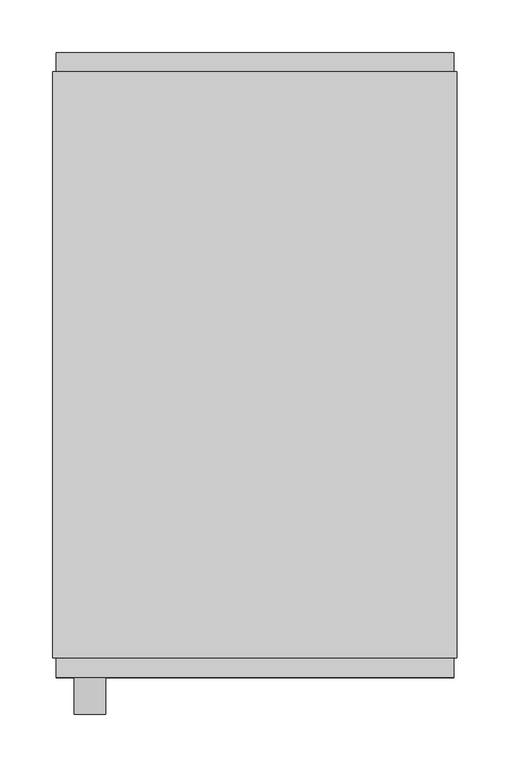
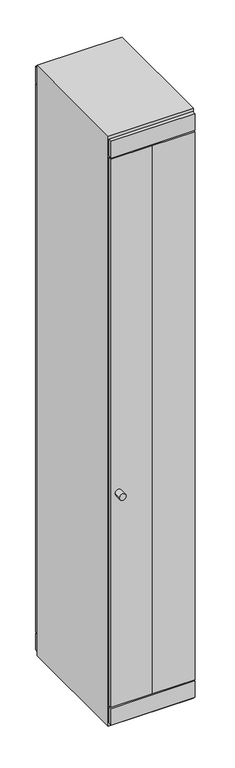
"""IFC4 building model written with IfcOpenShell, lengths in millimetres: furniture geometry, Apex - 1 DOOR - FC OR CAPPED : 1 DOOR - F/C OR CAPPED 400mm(w) x 590mm(d)."""

from ifc_helpers import new_model, si_unit, point, frame, frame_2d, origin, place, context, project, spatial, polyline, circle_curve, trimmed, segment, composite_curve, outline, extrude, source, transform, mapped, element, save


def furniture_bf96b95f(model_context):
    return source(origin(), model_context, "Body", "SweptSolid", [
        extrude(outline(composite_curve([segment(trimmed(circle_curve(frame_2d((1108.0, 35.0)), 15.0), [point((1108.0, 20.0))], [point((1108.0, 50.0))], False, "CARTESIAN"), True, "CONTINUOUS"), segment(trimmed(circle_curve(frame_2d((1108.0, 35.0)), 15.0), [point((1108.0, 50.0))], [point((1108.0, 20.0))], False, "CARTESIAN"), True, "CONTINUOUS")], self_intersect=False)), frame((0.0, -625.0, 0.0), z_axis=(0.0, 1.0, 0.0), x_axis=(0.0, 0.0, 1.0)), (0.0, 0.0, 1.0), 35.0),
        extrude(outline(polyline([(2800.0, 382.0), (2800.0, 0.0), (0.0, 0.0), (0.0, 382.0), (2800.0, 382.0)]), holes=[polyline([(115.0, 373.0), (115.0, 9.0), (2685.2991236, 9.0), (2685.2991236, 373.0), (115.0, 373.0)])]), frame((0.0, -572.0, 0.0), z_axis=(0.0, 1.0, 0.0), x_axis=(0.0, 0.0, 1.0)), (0.0, 0.0, 1.0), 554.0),
        extrude(outline(polyline([(186.0, -572.0), (379.0, -572.0), (379.0, -590.0), (186.0, -590.0), (3.0, -590.0), (3.0, -572.0), (186.0, -572.0)])), frame((0.0, 0.0, 100.0), z_axis=(0.0, 0.0, 1.0), x_axis=(1.0, 0.0, 0.0)), (0.0, 0.0, 1.0), 2600.0),
        extrude(outline(polyline([(379.0, 0.0), (379.0, -18.0), (3.0, -18.0), (3.0, 0.0), (379.0, 0.0)])), frame((0.0, 0.0, 100.0), z_axis=(0.0, 0.0, 1.0), x_axis=(1.0, 0.0, 0.0)), (0.0, 0.0, 1.0), 2600.0),
        extrude(outline(polyline([(379.0, -18.0), (3.0, -18.0), (3.0, 0.0), (379.0, 0.0), (379.0, -18.0)])), frame((0.0, 0.0, 2706.0), z_axis=(0.0, 0.0, 1.0), x_axis=(1.0, 0.0, 0.0)), (0.0, 0.0, 1.0), 79.0),
        extrude(outline(polyline([(379.0, -18.0), (3.0, -18.0), (3.0, 0.0), (379.0, 0.0), (379.0, -18.0)])), frame((0.0, 0.0, 15.0), z_axis=(0.0, 0.0, 1.0), x_axis=(1.0, 0.0, 0.0)), (0.0, 0.0, 1.0), 79.0),
        extrude(outline(polyline([(379.0, -590.0), (3.0, -590.0), (3.0, -572.0), (379.0, -572.0), (379.0, -590.0)])), frame((0.0, 0.0, 2706.0), z_axis=(0.0, 0.0, 1.0), x_axis=(1.0, 0.0, 0.0)), (0.0, 0.0, 1.0), 79.0),
        extrude(outline(polyline([(379.0, -590.0), (3.0, -590.0), (3.0, -572.0), (379.0, -572.0), (379.0, -590.0)])), frame((0.0, 0.0, 15.0), z_axis=(0.0, 0.0, 1.0), x_axis=(1.0, 0.0, 0.0)), (0.0, 0.0, 1.0), 79.0),
    ])


if __name__ == "__main__":
    model = new_model("IFC4")
    model_context = context("Model", 3, world=origin())
    ifc_project = project(units=[si_unit("LENGTHUNIT", "METRE", prefix="MILLI")], contexts=[model_context])
    site = spatial("IfcSite", under=ifc_project)
    building = spatial("IfcBuilding", under=site)
    placement = place(None, origin())
    furniture_shape = furniture_bf96b95f(model_context)
    element("IfcFurniture", 1, ObjectType="Apex - 1 DOOR - FC OR CAPPED : 1 DOOR - F/C OR CAPPED 400mm(w) x 590mm(d)", at=placement, inside=building, context=model_context, shape_type="MappedRepresentation", body=[
        mapped(furniture_shape, transform((0.0, 0.0, 0.0), x_axis=(1.0, 0.0, 0.0), y_axis=(0.0, 1.0, 0.0), z_axis=(0.0, 0.0, 1.0))),
    ])
    save(model, "model.ifc")
